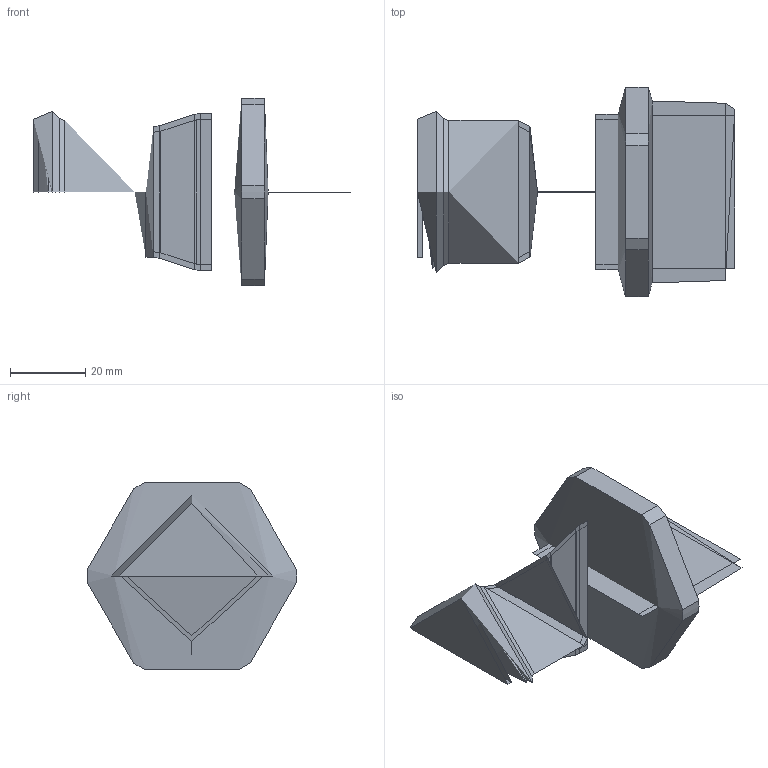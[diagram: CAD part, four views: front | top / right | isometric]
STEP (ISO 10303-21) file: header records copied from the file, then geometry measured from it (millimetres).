
FILE_DESCRIPTION(('FreeCAD Model'),'2;1');
FILE_NAME('Open CASCADE Shape Model','2025-10-20T15:01:25',('Author'),( ''),'Open CASCADE STEP processor 7.8','FreeCAD','Unknown');
FILE_SCHEMA(('AUTOMOTIVE_DESIGN { 1 0 10303 214 1 1 1 1 }'));
Length unit declared in the file: millimetre
Products named in the file (7): Unnamed159; COMPOUND; COMPOUND001; X-Achse; XY-Ebene; COMPOUND002; COMPOUND003
Assembly tree (18 placements, depth 3):
  Unnamed159
    COMPOUND
    COMPOUND001
      COMPOUND
    X-Achse  x6
    XY-Ebene  x6
    COMPOUND002
    COMPOUND003
      COMPOUND002
Bounding box: 84.5 x 55.74 x 50 mm (x, y, z)
Volume: 55599.9 mm3; surface area: 48329.6 mm2
Topology: 4 solids, 4 shells, 92 faces, 286 edges, 198 vertices
Faces by surface type: bspline 92
Entity records: 2280 total; most frequent: CARTESIAN_POINT 1338, ORIENTED_EDGE 280, EDGE_CURVE 140, VERTEX_POINT 99, FACE_BOUND 51, EDGE_LOOP 51, ADVANCED_FACE 46, DIRECTION 39
